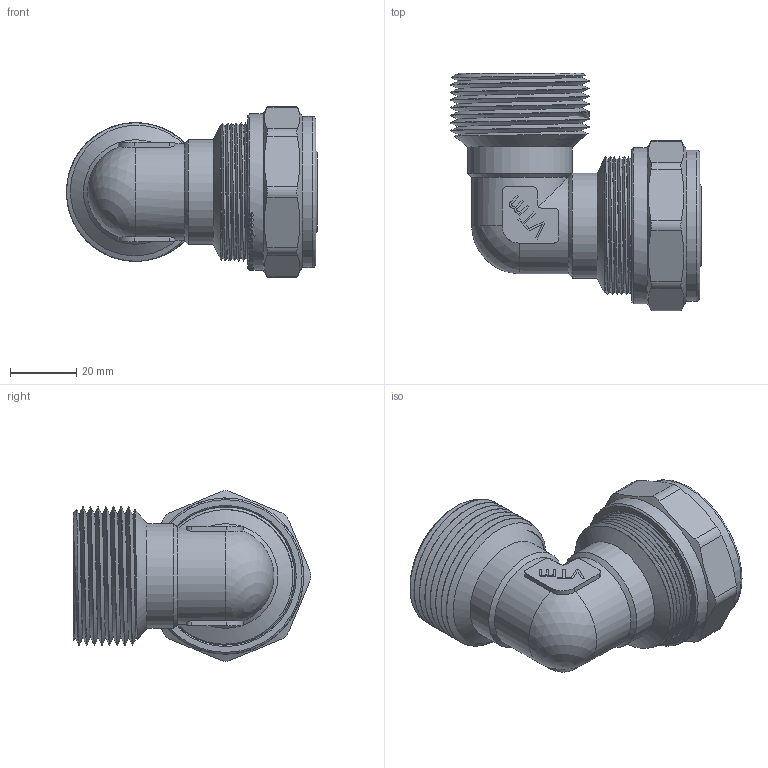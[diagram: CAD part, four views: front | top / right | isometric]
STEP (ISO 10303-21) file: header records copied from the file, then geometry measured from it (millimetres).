
FILE_DESCRIPTION(/* description */ (''),/* implementation_level */ '2;1');
FILE_NAME(/* name */ 'F:\Артём\00000\Работа удаленка\Обжимные фитинги\VTm.353.N.003207.stp',/* time_stamp */ '2020-08-10T13:20:00+03:00',/* author */ ('almis'),/* organization */ (''),/* preprocessor_version */ 'ST-DEVELOPER v18',/* originating_system */ 'Autodesk Inventor 2020',/* authorisation */ '');
FILE_SCHEMA (('AUTOMOTIVE_DESIGN { 1 0 10303 214 3 1 1 }'));
Length unit declared in the file: millimetre
Products named in the file (1): VTm.301.N.003206
Bounding box: 75.55 x 71.55 x 51.3 mm (x, y, z)
Volume: 64690.2 mm3; surface area: 34676.6 mm2
Topology: 1 solids, 1 shells, 705 faces, 2085 edges, 1403 vertices
Faces by surface type: bspline 317, plane 213, cylinder 125, cone 24, torus 24, sphere 2
Full cylindrical faces by diameter (mm): 20 x2, 22.8 x2, 25.75 x5, 29 x2, 30.538 x4, 31.5 x2, 31.683 x5, 32 x1, 32.2 x1, 32.7 x1, 35.5 x1, 37.1 x10, 39.98 x6, 40.5 x1, 41.7 x7, 45.5 x1, 47 x1
Entity records: 32873 total; most frequent: CARTESIAN_POINT 16180, ORIENTED_EDGE 4168, DIRECTION 2415, EDGE_CURVE 2084, VERTEX_POINT 1404, LINE 847, VECTOR 847, B_SPLINE_CURVE_WITH_KNOTS 826
